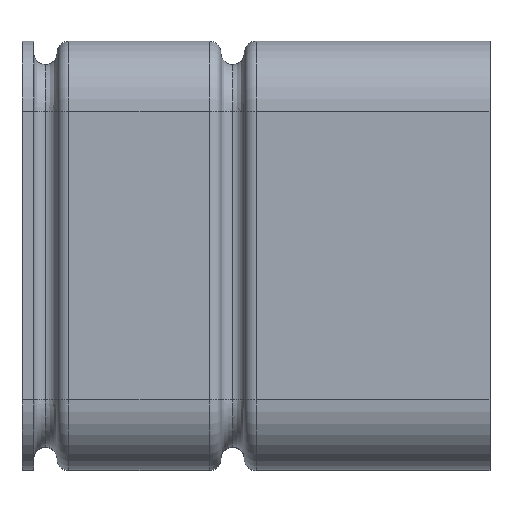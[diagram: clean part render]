
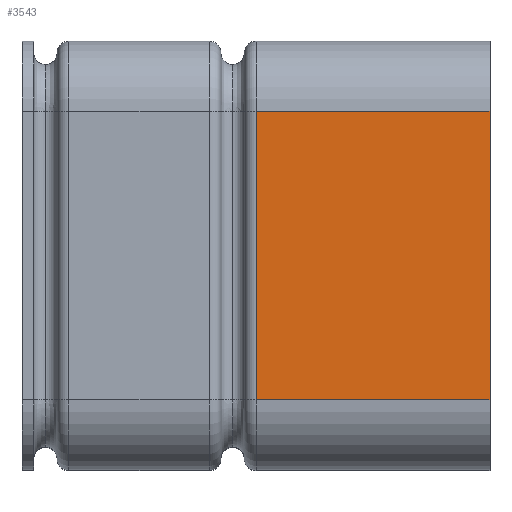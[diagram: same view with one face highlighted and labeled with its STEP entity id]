
A CAD part, top view. The second image highlights one B-rep face of the part: STEP entity #3543.
In plain terms, the highlighted planar face has unit normal (0, 0, 1).
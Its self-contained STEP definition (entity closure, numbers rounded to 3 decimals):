
#2754=CARTESIAN_POINT('',(-30.,-33.5,19.526));
#2755=VERTEX_POINT('',#2754);
#2788=CARTESIAN_POINT('',(0.,-33.5,19.526));
#2789=VERTEX_POINT('',#2788);
#2797=CARTESIAN_POINT('',(-30.,-33.5,19.526));
#2798=DIRECTION('',(1.0,0.0,0.0));
#2799=VECTOR('',#2798,30.);
#2800=LINE('',#2797,#2799);
#2801=EDGE_CURVE('',#2755,#2789,#2800,.T.);
#3494=CARTESIAN_POINT('',(-30.,3.5,19.526));
#3495=VERTEX_POINT('',#3494);
#3496=CARTESIAN_POINT('',(-30.,3.5,19.526));
#3497=DIRECTION('',(0.0,-1.0,0.0));
#3498=VECTOR('',#3497,37.);
#3499=LINE('',#3496,#3498);
#3500=EDGE_CURVE('',#3495,#2755,#3499,.T.);
#3520=CARTESIAN_POINT('',(-30.,3.5,19.526));
#3521=DIRECTION('',(0.0,0.0,1.0));
#3522=DIRECTION('',(1.0,0.0,0.0));
#3523=AXIS2_PLACEMENT_3D('',#3520,#3521,#3522);
#3524=PLANE('',#3523);
#3525=ORIENTED_EDGE('',*,*,#2801,.T.);
#3526=CARTESIAN_POINT('',(0.,3.5,19.526));
#3527=VERTEX_POINT('',#3526);
#3528=CARTESIAN_POINT('',(0.,3.5,19.526));
#3529=DIRECTION('',(0.0,-1.0,0.0));
#3530=VECTOR('',#3529,37.);
#3531=LINE('',#3528,#3530);
#3532=EDGE_CURVE('',#3527,#2789,#3531,.T.);
#3533=ORIENTED_EDGE('',*,*,#3532,.F.);
#3534=CARTESIAN_POINT('',(-30.,3.5,19.526));
#3535=DIRECTION('',(1.0,0.0,0.0));
#3536=VECTOR('',#3535,30.);
#3537=LINE('',#3534,#3536);
#3538=EDGE_CURVE('',#3495,#3527,#3537,.T.);
#3539=ORIENTED_EDGE('',*,*,#3538,.F.);
#3540=ORIENTED_EDGE('',*,*,#3500,.T.);
#3541=EDGE_LOOP('',(#3525,#3533,#3539,#3540));
#3542=FACE_OUTER_BOUND('',#3541,.T.);
#3543=ADVANCED_FACE('',(#3542),#3524,.T.);
